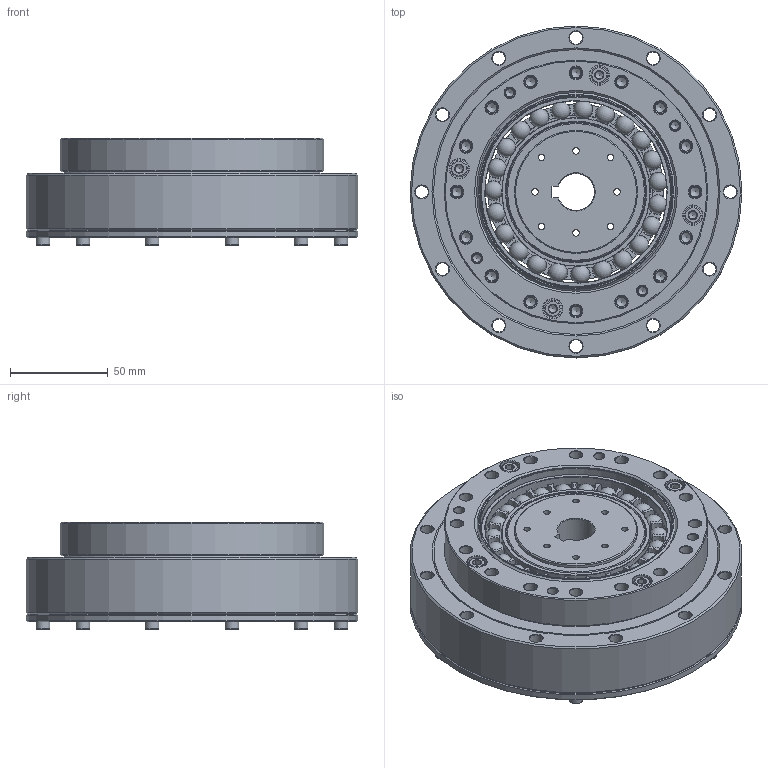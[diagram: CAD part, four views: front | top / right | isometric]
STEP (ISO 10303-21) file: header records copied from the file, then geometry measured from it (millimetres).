
FILE_DESCRIPTION(/* description */ (''),/* implementation_level */ '2;1');
FILE_NAME(/* name */ 'FHG-40-XX-U-I(孔径19).stp',/* time_stamp */ '2024-11-30T16:28:12+08:00',/* author */ (''),/* organization */ (''),/* preprocessor_version */ 'ST-DEVELOPER v16.7',/* originating_system */ 'SIEMENS PLM Software NX 12.0',/* authorisation */ '');
FILE_SCHEMA (('AUTOMOTIVE_DESIGN { 1 0 10303 214 3 1 1 1 }'));
Length unit declared in the file: millimetre
Products named in the file (15): EB719815-40KCH-46; EB719815-40KCH-04; EB719815-40KCH-02; EB719815-40KCH-01; TC-132x146x7; GB-T70.1-2000,M5x16; GB-T70.1-2000,M4x10; 发生器FSG-40-XXDL直径19_stp; O型密封圈113-108.25-1.5; O型密封圈148-142.6-1.5; 刚轮FHG-40; 柔轮FHG-40; EB719815-40KCH_stp; 交叉轴承LHT-40; FHG-40-XX-U-I(孔径19)
Assembly tree (22 placements, depth 3):
  FHG-40-XX-U-I(孔径19)
    柔轮FHG-40
    刚轮FHG-40
    交叉轴承LHT-40
      TC-132x146x7
    O型密封圈148-142.6-1.5
    O型密封圈113-108.25-1.5
    发生器FSG-40-XXDL直径19_stp
    EB719815-40KCH_stp
      EB719815-40KCH-01
      EB719815-40KCH-02
      EB719815-40KCH-04
      EB719815-40KCH-46
    GB-T70.1-2000,M4x10  x6
    GB-T70.1-2000,M5x16  x4
Bounding box: 170 x 170 x 55 mm (x, y, z)
Volume: 581613 mm3; surface area: 262241.3 mm2
Topology: 44 solids, 44 shells, 903 faces, 2093 edges, 1267 vertices
Faces by surface type: cone 310, plane 246, cylinder 233, torus 89, sphere 23, bspline 2
Full cylindrical faces by diameter (mm): 2.5 x4, 3.3 x28, 3.838 x6, 4.2 x8, 4.5 x12, 4.826 x4, 5 x16, 5.5 x8, 6.6 x40, 7 x6, 8.5 x4, 10 x4, 32 x1, 63 x1, 68.8 x1, 71.12 x2, 76.14 x2, 78.9 x1, 87 x1, 90.1 x1, 93.27 x2, 98.171 x2, 99.345 x1, 101.923 x1, 102.44 x1, 105 x1, 108 x2, 108.25 x2, 109 x1, 113 x2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
Entity records: 20115 total; most frequent: CARTESIAN_POINT 5386, DIRECTION 3186, ORIENTED_EDGE 2162, AXIS2_PLACEMENT_3D 1509, EDGE_LOOP 1251, FACE_BOUND 1099, EDGE_CURVE 1081, VERTEX_POINT 933
